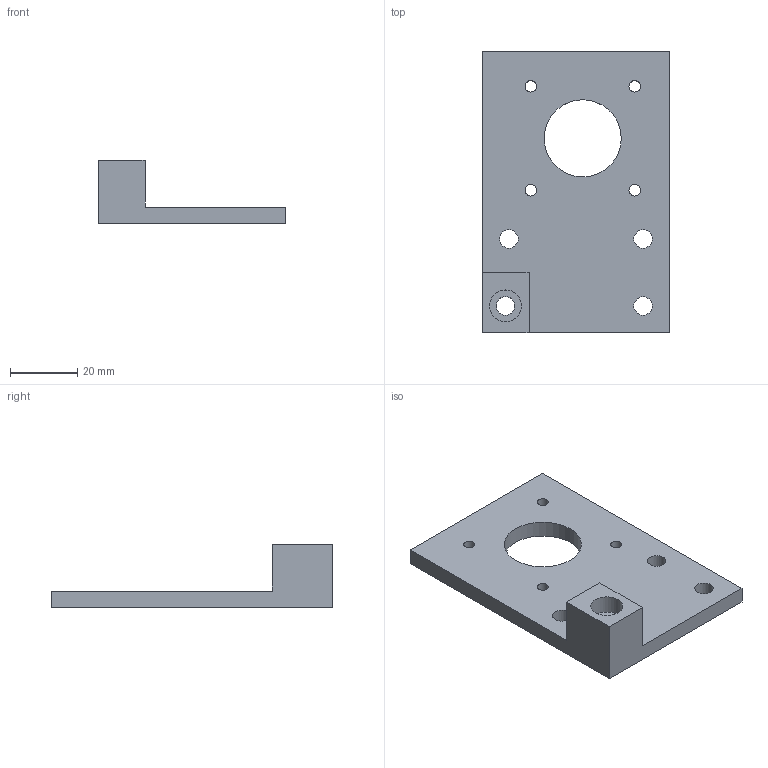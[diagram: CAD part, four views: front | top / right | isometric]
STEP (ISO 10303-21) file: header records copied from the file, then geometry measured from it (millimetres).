
FILE_DESCRIPTION(('Open CASCADE Model'),'2;1');
FILE_NAME('Open CASCADE Shape Model','2026-10-23T08:22:11',('Author'),( 'Open CASCADE'),'Open CASCADE STEP processor 7.9','Open CASCADE 7.9' ,'Unknown');
FILE_SCHEMA(('AUTOMOTIVE_DESIGN { 1 0 10303 214 1 1 1 1 }'));
Length unit declared in the file: millimetre
Products named in the file (1): Open CASCADE STEP translator 7.9 2
Bounding box: 56 x 84 x 19 mm (x, y, z)
Volume: 23722.1 mm3; surface area: 11841.9 mm2
Topology: 1 solids, 1 shells, 20 faces, 51 edges, 34 vertices
Faces by surface type: plane 10, cylinder 10
Full cylindrical faces by diameter (mm): 3.4 x4, 5.5 x4, 9.5 x1, 23 x1
Entity records: 1324 total; most frequent: DIRECTION 215, CARTESIAN_POINT 208, LINE 113, VECTOR 113, ORIENTED_EDGE 102, PCURVE 102, DEFINITIONAL_REPRESENTATION 102, EDGE_CURVE 51
